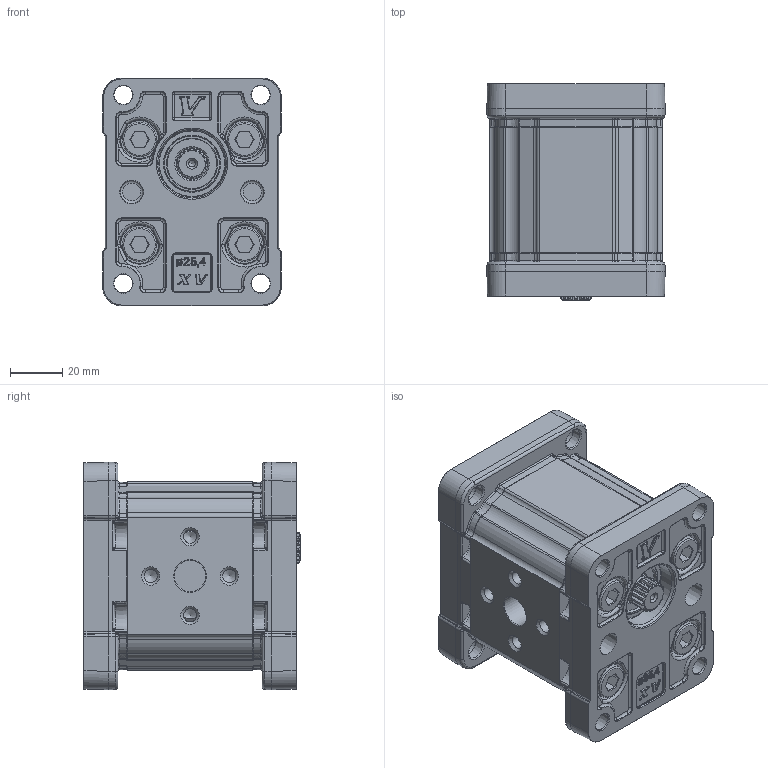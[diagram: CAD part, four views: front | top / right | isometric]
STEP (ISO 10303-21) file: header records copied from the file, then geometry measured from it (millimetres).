
FILE_DESCRIPTION(/* description */ ('Unknown'),/* implementation_level */ '2;1');
FILE_NAME(/* name */ 'X1I2172SIIA',/* time_stamp */ '2026-05-27T08:40:00+02:00',/* author */ ('Unknown'),/* organization */ ('Unknown'),/* preprocessor_version */ 'ST-DEVELOPER v16.7',/* originating_system */ 'Solid Edge',/* authorisation */ 'Unknown');
FILE_SCHEMA (('AUTOMOTIVE_DESIGN {1 0 10303 214 3 1 1}'));
Products named in the file (5): X1I2172SIIA; X1I72; 1S; X1IIH48; XI101-A
Assembly tree (4 placements, depth 2):
  X1I2172SIIA
    X1I72
    1S
    X1IIH48
    XI101-A
Bounding box: 68 x 82.5 x 86.7 mm (x, y, z)
Volume: 343601.1 mm3; surface area: 76375.2 mm2
Topology: 5 solids, 5 shells, 2472 faces, 6106 edges, 3669 vertices
Faces by surface type: cylinder 883, plane 451, bspline 444, torus 391, cone 283, sphere 20
Full cylindrical faces by diameter (mm): 2.5 x2, 3.65 x4, 5 x8, 6.8 x4, 7.15 x8, 7.99 x4, 8 x4, 8.5 x8, 9 x2, 9.337 x8, 9.9 x2, 10.5 x2, 11.965 x2, 12 x2, 13 x4, 13.107 x1, 14.692 x1, 17.135 x1, 19 x2, 21.4 x2, 25.4 x2
Entity records: 106651 total; most frequent: CARTESIAN_POINT 35125, ORIENTED_EDGE 11420, DIRECTION 11360, EDGE_CURVE 5710, AXIS2_PLACEMENT_3D 4851, VERTEX_POINT 3554, FACE_BOUND 2830, EDGE_LOOP 2820
